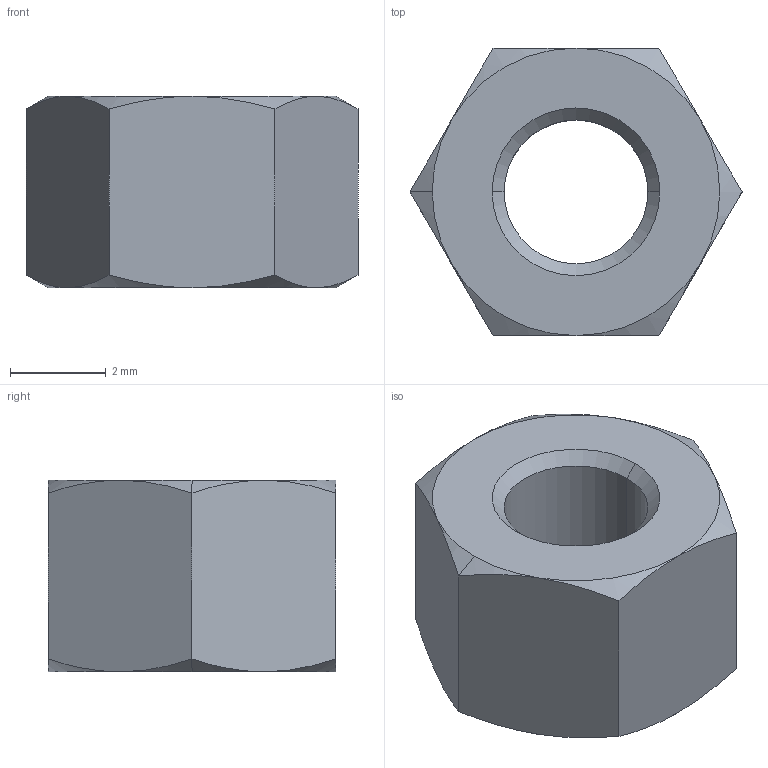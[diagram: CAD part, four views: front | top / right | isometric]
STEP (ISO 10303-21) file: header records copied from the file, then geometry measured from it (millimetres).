
FILE_DESCRIPTION (( 'STEP AP203' ), '1' );
FILE_NAME ('N0503.030-004-NP.step', '2025-02-27T14:40:16', ( '' ), ( '' ), 'SwSTEP 2.0', 'SolidWorks 2019', '' );
FILE_SCHEMA (( 'CONFIG_CONTROL_DESIGN' ));
Length unit declared in the file: millimetre
Products named in the file (1): N0503.030-004-NP
Bounding box: 6.93 x 6 x 4 mm (x, y, z)
Volume: 95.3 mm3; surface area: 163.5 mm2
Topology: 1 solids, 1 shells, 28 faces, 60 edges, 34 vertices
Faces by surface type: cone 18, plane 8, cylinder 2
Entity records: 871 total; most frequent: CARTESIAN_POINT 219, ORIENTED_EDGE 120, DIRECTION 116, EDGE_CURVE 60, AXIS2_PLACEMENT_3D 51, VERTEX_POINT 34, EDGE_LOOP 30, FACE_OUTER_BOUND 28
